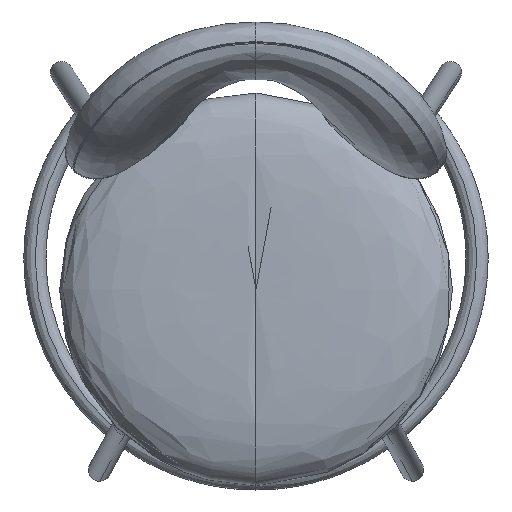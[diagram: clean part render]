
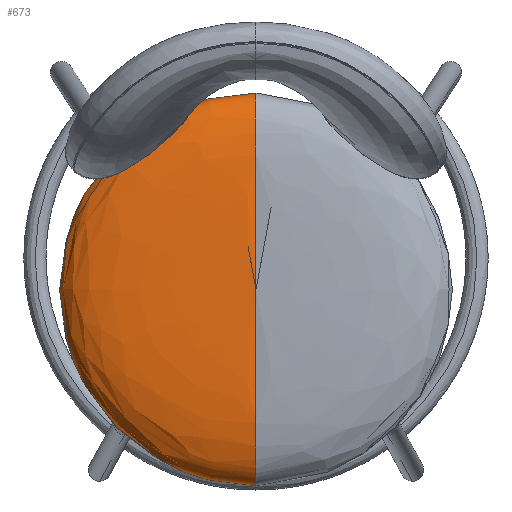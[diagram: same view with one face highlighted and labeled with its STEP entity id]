
A CAD part, top view. The second image highlights one B-rep face of the part: STEP entity #673.
In plain terms, the highlighted free-form (B-spline) face has degree [3, 2] with [8, 5] control points.
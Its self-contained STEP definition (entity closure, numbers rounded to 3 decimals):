
#222=(
BOUNDED_SURFACE()
B_SPLINE_SURFACE(3,2,((#56342,#56343,#56344,#56345,#56346),(#56347,#56348,
#56349,#56350,#56351),(#56352,#56353,#56354,#56355,#56356),(#56357,#56358,
#56359,#56360,#56361),(#56362,#56363,#56364,#56365,#56366),(#56367,#56368,
#56369,#56370,#56371),(#56372,#56373,#56374,#56375,#56376),(#56377,#56378,
#56379,#56380,#56381)),.UNSPECIFIED.,.F.,.F.,.F.)
B_SPLINE_SURFACE_WITH_KNOTS((4,3,1,4),(3,2,3),(-265.,0.,117.5,
235.),(691.148,1036.723,1382.297),
 .UNSPECIFIED.)
GEOMETRIC_REPRESENTATION_ITEM()
RATIONAL_B_SPLINE_SURFACE(((1.,0.707,1.,0.707,1.),
(1.,0.707,1.,0.707,1.),(1.,0.707,1.,
0.707,1.),(1.,0.707,1.,0.707,1.),(1.,
0.707,1.,0.707,1.),(1.,0.707,1.,0.707,
1.),(1.,0.707,1.,0.707,1.),(1.,0.707,
1.,0.707,1.)))
REPRESENTATION_ITEM('')
SURFACE()
);
#673=ADVANCED_FACE('',(#767),#222,.T.);
#767=FACE_OUTER_BOUND('',#861,.T.);
#861=EDGE_LOOP('',(#1182,#1183));
#1182=ORIENTED_EDGE('',*,*,#1471,.T.);
#1183=ORIENTED_EDGE('',*,*,#1470,.F.);
#1470=EDGE_CURVE('',#1756,#1757,#1534,.T.);
#1471=EDGE_CURVE('',#1756,#1757,#1535,.T.);
#1534=B_SPLINE_CURVE_WITH_KNOTS('',3,(#56384,#56385,#56386,#56387,#56388,
#56389,#56390,#56391),.UNSPECIFIED.,.F.,.F.,(4,3,1,4),(-265.,
0.,117.5,235.),.UNSPECIFIED.);
#1535=B_SPLINE_CURVE_WITH_KNOTS('',3,(#56392,#56393,#56394,#56395,#56396,
#56397,#56398,#56399),.UNSPECIFIED.,.F.,.F.,(4,3,1,4),(-265.,
0.,117.5,235.),.UNSPECIFIED.);
#1756=VERTEX_POINT('',#56382);
#1757=VERTEX_POINT('',#56383);
#56342=CARTESIAN_POINT('',(1097.972,2728.154,650.));
#56343=CARTESIAN_POINT('',(1097.972,2728.154,650.));
#56344=CARTESIAN_POINT('',(1097.972,2728.154,650.));
#56345=CARTESIAN_POINT('',(1097.972,2728.154,650.));
#56346=CARTESIAN_POINT('',(1097.972,2728.154,650.));
#56347=CARTESIAN_POINT('',(1097.972,2866.534,650.));
#56348=CARTESIAN_POINT('',(959.592,2866.534,650.));
#56349=CARTESIAN_POINT('',(959.592,2728.154,650.));
#56350=CARTESIAN_POINT('',(959.592,2589.774,650.));
#56351=CARTESIAN_POINT('',(1097.972,2589.774,650.));
#56352=CARTESIAN_POINT('',(1097.972,2948.154,650.));
#56353=CARTESIAN_POINT('',(877.972,2948.154,650.));
#56354=CARTESIAN_POINT('',(877.972,2728.154,650.));
#56355=CARTESIAN_POINT('',(877.972,2508.154,650.));
#56356=CARTESIAN_POINT('',(1097.972,2508.154,650.));
#56357=CARTESIAN_POINT('',(1097.972,2948.154,605.));
#56358=CARTESIAN_POINT('',(877.972,2948.154,605.));
#56359=CARTESIAN_POINT('',(877.972,2728.154,605.));
#56360=CARTESIAN_POINT('',(877.972,2508.154,605.));
#56361=CARTESIAN_POINT('',(1097.972,2508.154,605.));
#56362=CARTESIAN_POINT('',(1097.972,2948.154,590.));
#56363=CARTESIAN_POINT('',(877.972,2948.154,590.));
#56364=CARTESIAN_POINT('',(877.972,2728.154,590.));
#56365=CARTESIAN_POINT('',(877.972,2508.154,590.));
#56366=CARTESIAN_POINT('',(1097.972,2508.154,590.));
#56367=CARTESIAN_POINT('',(1097.972,2933.433,590.));
#56368=CARTESIAN_POINT('',(892.693,2933.433,590.));
#56369=CARTESIAN_POINT('',(892.693,2728.154,590.));
#56370=CARTESIAN_POINT('',(892.693,2522.874,590.));
#56371=CARTESIAN_POINT('',(1097.972,2522.874,590.));
#56372=CARTESIAN_POINT('',(1097.972,2897.272,590.));
#56373=CARTESIAN_POINT('',(928.854,2897.272,590.));
#56374=CARTESIAN_POINT('',(928.854,2728.154,590.));
#56375=CARTESIAN_POINT('',(928.854,2559.036,590.));
#56376=CARTESIAN_POINT('',(1097.972,2559.036,590.));
#56377=CARTESIAN_POINT('',(1097.972,2728.154,590.));
#56378=CARTESIAN_POINT('',(1097.972,2728.154,590.));
#56379=CARTESIAN_POINT('',(1097.972,2728.154,590.));
#56380=CARTESIAN_POINT('',(1097.972,2728.154,590.));
#56381=CARTESIAN_POINT('',(1097.972,2728.154,590.));
#56382=CARTESIAN_POINT('',(1097.972,2728.154,650.));
#56383=CARTESIAN_POINT('',(1097.972,2728.154,590.));
#56384=CARTESIAN_POINT('',(1097.972,2728.154,650.));
#56385=CARTESIAN_POINT('',(1097.972,2589.774,650.));
#56386=CARTESIAN_POINT('',(1097.972,2508.154,650.));
#56387=CARTESIAN_POINT('',(1097.972,2508.154,605.));
#56388=CARTESIAN_POINT('',(1097.972,2508.154,590.));
#56389=CARTESIAN_POINT('',(1097.972,2522.874,590.));
#56390=CARTESIAN_POINT('',(1097.972,2559.036,590.));
#56391=CARTESIAN_POINT('',(1097.972,2728.154,590.));
#56392=CARTESIAN_POINT('',(1097.972,2728.154,650.));
#56393=CARTESIAN_POINT('',(1097.972,2866.534,650.));
#56394=CARTESIAN_POINT('',(1097.972,2948.154,650.));
#56395=CARTESIAN_POINT('',(1097.972,2948.154,605.));
#56396=CARTESIAN_POINT('',(1097.972,2948.154,590.));
#56397=CARTESIAN_POINT('',(1097.972,2933.433,590.));
#56398=CARTESIAN_POINT('',(1097.972,2897.272,590.));
#56399=CARTESIAN_POINT('',(1097.972,2728.154,590.));
